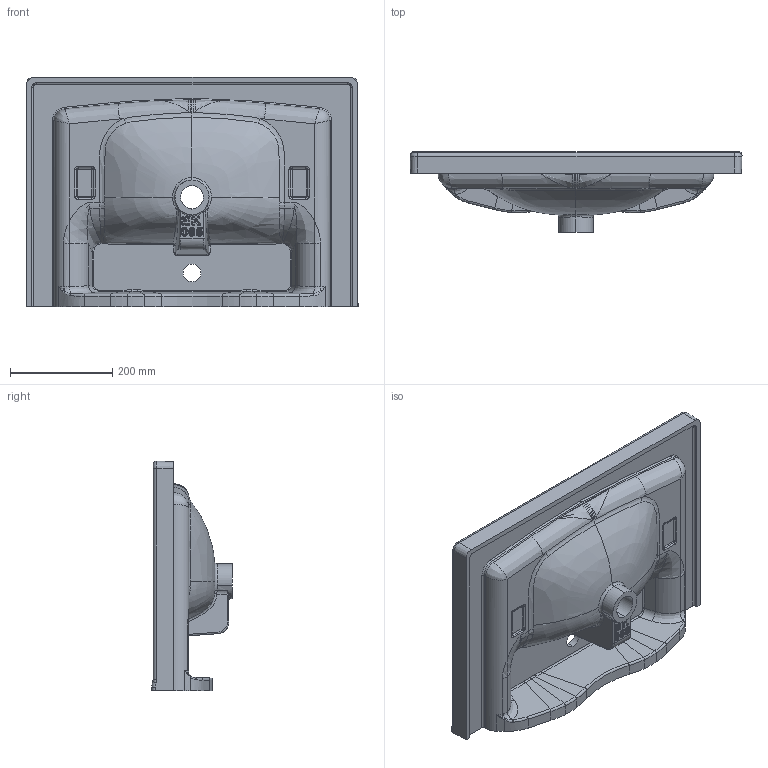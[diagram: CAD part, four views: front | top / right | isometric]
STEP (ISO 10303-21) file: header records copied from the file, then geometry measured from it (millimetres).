
FILE_DESCRIPTION (( 'STEP AP203' ), '1' );
FILE_NAME ('EK065.STEP', '2022-04-07T11:00:55', ( '' ), ( '' ), 'SwSTEP 2.0', 'SolidWorks 2021', '' );
FILE_SCHEMA (( 'CONFIG_CONTROL_DESIGN' ));
Products named in the file (1): EK065
Bounding box: 649.79 x 158.37 x 449.82 mm (x, y, z)
Volume: 9704108.1 mm3; surface area: 878085.2 mm2
Topology: 2 solids, 2 shells, 519 faces, 1305 edges, 741 vertices
Faces by surface type: bspline 186, cylinder 143, torus 81, plane 51, sphere 49, cone 9
Entity records: 85765 total; most frequent: CARTESIAN_POINT 74822, ORIENTED_EDGE 2496, DIRECTION 2041, EDGE_CURVE 1248, AXIS2_PLACEMENT_3D 870, VERTEX_POINT 741, CIRCLE 536, EDGE_LOOP 533
